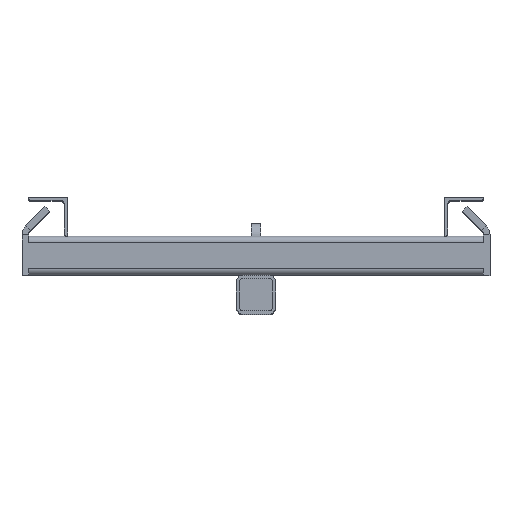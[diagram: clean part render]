
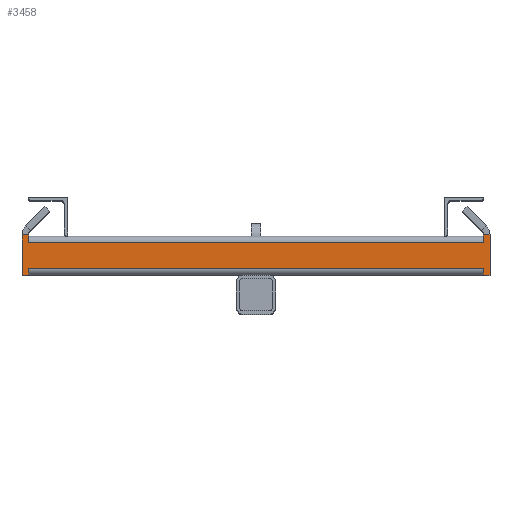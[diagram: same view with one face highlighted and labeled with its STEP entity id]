
A CAD part, top view. The second image highlights one B-rep face of the part: STEP entity #3458.
In plain terms, the highlighted planar face has unit normal (0, 0, 1).
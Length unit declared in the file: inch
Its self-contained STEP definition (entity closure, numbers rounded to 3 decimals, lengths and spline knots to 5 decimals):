
#154=FACE_OUTER_BOUND('',#349,.T.);
#349=EDGE_LOOP('',(#2467,#2468,#2469,#2470,#2471,#2472,#2473,#2474,#2475,
#2476,#2477,#2478));
#729=LINE('',#5309,#1099);
#730=LINE('',#5312,#1100);
#731=LINE('',#5314,#1101);
#732=LINE('',#5316,#1102);
#733=LINE('',#5318,#1103);
#734=LINE('',#5320,#1104);
#735=LINE('',#5322,#1105);
#736=LINE('',#5324,#1106);
#737=LINE('',#5326,#1107);
#738=LINE('',#5328,#1108);
#739=LINE('',#5330,#1109);
#740=LINE('',#5331,#1110);
#1099=VECTOR('',#4321,35.);
#1100=VECTOR('',#4324,0.5);
#1101=VECTOR('',#4325,0.5);
#1102=VECTOR('',#4326,3.08579);
#1103=VECTOR('',#4327,0.5);
#1104=VECTOR('',#4328,0.58579);
#1105=VECTOR('',#4329,35.);
#1106=VECTOR('',#4330,0.58579);
#1107=VECTOR('',#4331,0.5);
#1108=VECTOR('',#4332,3.08579);
#1109=VECTOR('',#4333,0.5);
#1110=VECTOR('',#4334,0.5);
#1469=VERTEX_POINT('',#5301);
#1472=VERTEX_POINT('',#5307);
#1473=VERTEX_POINT('',#5311);
#1474=VERTEX_POINT('',#5313);
#1475=VERTEX_POINT('',#5315);
#1476=VERTEX_POINT('',#5317);
#1477=VERTEX_POINT('',#5319);
#1478=VERTEX_POINT('',#5321);
#1479=VERTEX_POINT('',#5323);
#1480=VERTEX_POINT('',#5325);
#1481=VERTEX_POINT('',#5327);
#1482=VERTEX_POINT('',#5329);
#1837=EDGE_CURVE('',#1472,#1469,#729,.T.);
#1838=EDGE_CURVE('',#1472,#1473,#730,.T.);
#1839=EDGE_CURVE('',#1473,#1474,#731,.T.);
#1840=EDGE_CURVE('',#1474,#1475,#732,.T.);
#1841=EDGE_CURVE('',#1475,#1476,#733,.T.);
#1842=EDGE_CURVE('',#1476,#1477,#734,.T.);
#1843=EDGE_CURVE('',#1477,#1478,#735,.T.);
#1844=EDGE_CURVE('',#1478,#1479,#736,.T.);
#1845=EDGE_CURVE('',#1479,#1480,#737,.T.);
#1846=EDGE_CURVE('',#1480,#1481,#738,.T.);
#1847=EDGE_CURVE('',#1482,#1481,#739,.T.);
#1848=EDGE_CURVE('',#1482,#1469,#740,.T.);
#2467=ORIENTED_EDGE('',*,*,#1837,.F.);
#2468=ORIENTED_EDGE('',*,*,#1838,.T.);
#2469=ORIENTED_EDGE('',*,*,#1839,.T.);
#2470=ORIENTED_EDGE('',*,*,#1840,.T.);
#2471=ORIENTED_EDGE('',*,*,#1841,.T.);
#2472=ORIENTED_EDGE('',*,*,#1842,.T.);
#2473=ORIENTED_EDGE('',*,*,#1843,.T.);
#2474=ORIENTED_EDGE('',*,*,#1844,.T.);
#2475=ORIENTED_EDGE('',*,*,#1845,.T.);
#2476=ORIENTED_EDGE('',*,*,#1846,.T.);
#2477=ORIENTED_EDGE('',*,*,#1847,.F.);
#2478=ORIENTED_EDGE('',*,*,#1848,.T.);
#3107=PLANE('',#3720);
#3458=ADVANCED_FACE('',(#154),#3107,.T.);
#3720=AXIS2_PLACEMENT_3D('',#5310,#4322,#4323);
#4321=DIRECTION('',(-1.,0.,0.));
#4322=DIRECTION('center_axis',(0.,0.,1.));
#4323=DIRECTION('ref_axis',(-1.,0.,0.));
#4324=DIRECTION('',(0.,-1.,0.));
#4325=DIRECTION('',(1.,0.,0.));
#4326=DIRECTION('',(0.,1.,0.));
#4327=DIRECTION('',(-1.,0.,0.));
#4328=DIRECTION('',(0.,-1.,0.));
#4329=DIRECTION('',(-1.,0.,0.));
#4330=DIRECTION('',(0.,1.,0.));
#4331=DIRECTION('',(-1.,0.,0.));
#4332=DIRECTION('',(0.,-1.,0.));
#4333=DIRECTION('',(-1.,0.,0.));
#4334=DIRECTION('',(0.,1.,0.));
#5301=CARTESIAN_POINT('',(-17.5,-1.5,17.5));
#5307=CARTESIAN_POINT('',(17.5,-1.5,17.5));
#5309=CARTESIAN_POINT('',(17.5,-1.5,17.5));
#5310=CARTESIAN_POINT('Origin',(17.5,0.5,17.5));
#5311=CARTESIAN_POINT('',(17.5,-2.,17.5));
#5312=CARTESIAN_POINT('',(17.5,1.5,17.5));
#5313=CARTESIAN_POINT('',(18.,-2.,17.5));
#5314=CARTESIAN_POINT('',(17.5,-2.,17.5));
#5315=CARTESIAN_POINT('',(18.,1.08579,17.5));
#5316=CARTESIAN_POINT('',(18.,1.5,17.5));
#5317=CARTESIAN_POINT('',(17.5,1.08579,17.5));
#5318=CARTESIAN_POINT('',(17.5,1.08579,17.5));
#5319=CARTESIAN_POINT('',(17.5,0.5,17.5));
#5320=CARTESIAN_POINT('',(17.5,1.5,17.5));
#5321=CARTESIAN_POINT('',(-17.5,0.5,17.5));
#5322=CARTESIAN_POINT('',(17.5,0.5,17.5));
#5323=CARTESIAN_POINT('',(-17.5,1.08579,17.5));
#5324=CARTESIAN_POINT('',(-17.5,-2.,17.5));
#5325=CARTESIAN_POINT('',(-18.,1.08579,17.5));
#5326=CARTESIAN_POINT('',(-17.5,1.08579,17.5));
#5327=CARTESIAN_POINT('',(-18.,-2.,17.5));
#5328=CARTESIAN_POINT('',(-18.,-2.,17.5));
#5329=CARTESIAN_POINT('',(-17.5,-2.,17.5));
#5330=CARTESIAN_POINT('',(-17.5,-2.,17.5));
#5331=CARTESIAN_POINT('',(-17.5,-2.,17.5));
